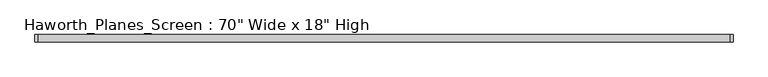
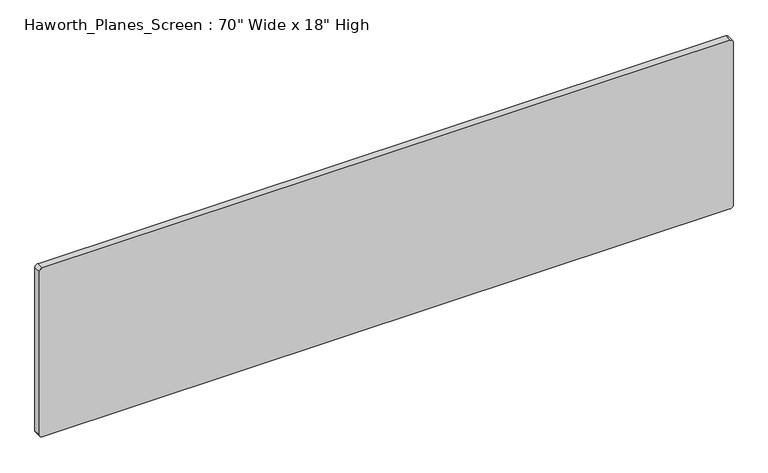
"""IFC4 building model written with IfcOpenShell, lengths in millimetres: furniture geometry."""

from ifc_helpers import new_model, si_unit, point, frame, frame_2d, origin, place, context, project, spatial, polyline, circle_curve, trimmed, segment, composite_curve, outline, extrude, source, transform, mapped, element, save


def furniture_86ecbb01(model_context):
    return source(origin(), model_context, "Body", "SweptSolid", [
        extrude(outline(composite_curve([segment(polyline([(457.2, 881.0625), (457.2, -881.0625)]), True, "CONTINUOUS"), segment(trimmed(circle_curve(frame_2d((449.2625, -881.0625)), 7.9375), [point((457.2, -881.0625))], [point((449.2625, -889.0))], False, "CARTESIAN"), True, "CONTINUOUS"), segment(polyline([(449.2625, -889.0), (7.9375, -889.0)]), True, "CONTINUOUS"), segment(trimmed(circle_curve(frame_2d((7.9375, -881.0625)), 7.9375), [point((7.9375, -889.0))], [point((0.0, -881.0625))], False, "CARTESIAN"), True, "CONTINUOUS"), segment(polyline([(0.0, -881.0625), (0.0, 881.0625)]), True, "CONTINUOUS"), segment(trimmed(circle_curve(frame_2d((7.9375, 881.0625)), 7.9375), [point((0.0, 881.0625))], [point((7.9375, 889.0))], False, "CARTESIAN"), True, "CONTINUOUS"), segment(polyline([(7.9375, 889.0), (449.2625, 889.0)]), True, "CONTINUOUS"), segment(trimmed(circle_curve(frame_2d((449.2625, 881.0625)), 7.9375), [point((449.2625, 889.0))], [point((457.2, 881.0625))], False, "CARTESIAN"), True, "CONTINUOUS")], self_intersect=False)), frame((0.0, -9.525, 0.0), z_axis=(0.0, 1.0, 0.0), x_axis=(0.0, 0.0, 1.0)), (0.0, 0.0, 1.0), 19.05),
    ])


if __name__ == "__main__":
    model = new_model("IFC4")
    model_context = context("Model", 3, world=origin())
    ifc_project = project(units=[si_unit("LENGTHUNIT", "METRE", prefix="MILLI")], contexts=[model_context])
    site = spatial("IfcSite", under=ifc_project)
    building = spatial("IfcBuilding", under=site)
    placement = place(None, origin())
    furniture_shape = furniture_86ecbb01(model_context)
    element("IfcFurniture", 1, ObjectType="Haworth_Planes_Screen : 70\" Wide x 18\" High", at=placement, inside=building, context=model_context, shape_type="MappedRepresentation", body=[
        mapped(furniture_shape, transform((0.0, 0.0, 0.0), x_axis=(1.0, 0.0, 0.0), y_axis=(0.0, 1.0, 0.0), z_axis=(0.0, 0.0, 1.0))),
    ])
    save(model, "model.ifc")
